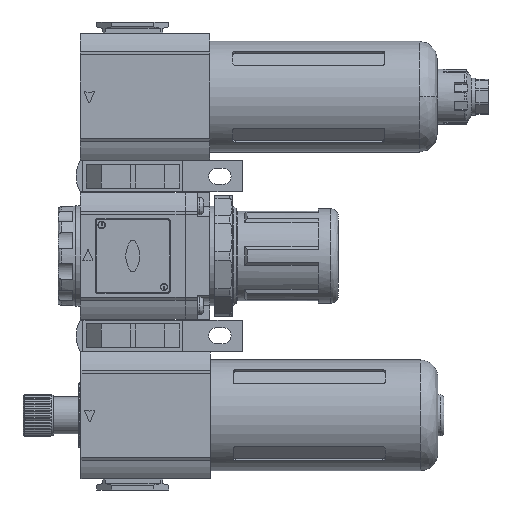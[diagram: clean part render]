
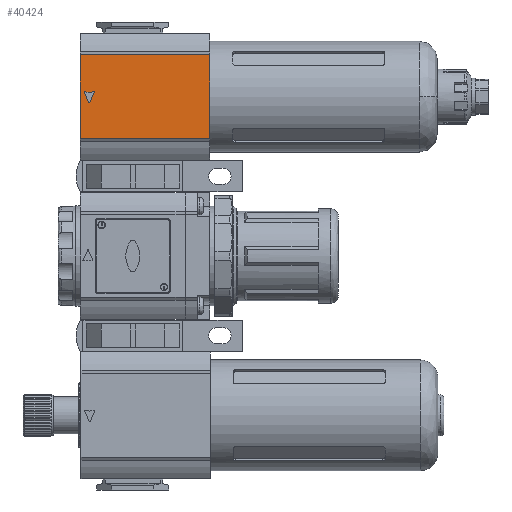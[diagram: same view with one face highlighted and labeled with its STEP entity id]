
A CAD part, left-side view. The second image highlights one B-rep face of the part: STEP entity #40424.
In plain terms, the highlighted planar face has unit normal (-1, 0, 0).
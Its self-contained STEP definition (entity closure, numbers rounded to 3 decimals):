
#798 = LINE ( 'NONE', #67781, #26545 ) ;
#2105 = CARTESIAN_POINT ( 'NONE',  ( -26.7, 19.3, 65.8 ) ) ;
#2261 = VERTEX_POINT ( 'NONE', #25064 ) ;
#4230 = VERTEX_POINT ( 'NONE', #27060 ) ;
#4286 = EDGE_LOOP ( 'NONE', ( #40683, #69000, #47653, #45092 ) ) ;
#4498 = DIRECTION ( 'NONE',  ( 0., 0., 1. ) ) ;
#4792 = DIRECTION ( 'NONE',  ( 0., 0., 1. ) ) ;
#5533 = VERTEX_POINT ( 'NONE', #10269 ) ;
#6262 = ORIENTED_EDGE ( 'NONE', *, *, #47110, .T. ) ;
#6492 = VECTOR ( 'NONE', #79758, 1000. ) ;
#7714 = DIRECTION ( 'NONE',  ( 1., 0., 0. ) ) ;
#8051 = ORIENTED_EDGE ( 'NONE', *, *, #13329, .T. ) ;
#8359 = EDGE_CURVE ( 'NONE', #57718, #5533, #71864, .T. ) ;
#8460 = EDGE_CURVE ( 'NONE', #55665, #2261, #42851, .T. ) ;
#9013 = CARTESIAN_POINT ( 'NONE',  ( -26.7, -31., 80.869 ) ) ;
#9205 = AXIS2_PLACEMENT_3D ( 'NONE', #14040, #7714, #71010 ) ;
#10084 = FACE_BOUND ( 'NONE', #47699, .T. ) ;
#10269 = CARTESIAN_POINT ( 'NONE',  ( -26.7, -31., 80.869 ) ) ;
#12154 = ORIENTED_EDGE ( 'NONE', *, *, #36461, .T. ) ;
#12278 = CARTESIAN_POINT ( 'NONE',  ( -26.7, 17.683, 61.62 ) ) ;
#12723 = EDGE_CURVE ( 'NONE', #2261, #45279, #47213, .T. ) ;
#13329 = EDGE_CURVE ( 'NONE', #35705, #64385, #61700, .T. ) ;
#14040 = CARTESIAN_POINT ( 'NONE',  ( -26.7, 15.7, 65.8 ) ) ;
#14122 = EDGE_CURVE ( 'NONE', #64385, #55665, #29233, .T. ) ;
#15078 = CARTESIAN_POINT ( 'NONE',  ( -26.7, 15.7, 66. ) ) ;
#17049 = CARTESIAN_POINT ( 'NONE',  ( -26.7, 15.517, 65.72 ) ) ;
#20768 = CARTESIAN_POINT ( 'NONE',  ( -26.7, 15.517, 65.72 ) ) ;
#22113 = DIRECTION ( 'NONE',  ( 0., -1., 0. ) ) ;
#23833 = VECTOR ( 'NONE', #90153, 1000. ) ;
#25064 = CARTESIAN_POINT ( 'NONE',  ( -26.7, 17.317, 61.62 ) ) ;
#26545 = VECTOR ( 'NONE', #4498, 1000. ) ;
#27060 = CARTESIAN_POINT ( 'NONE',  ( -26.7, -31., 47.131 ) ) ;
#27399 = DIRECTION ( 'NONE',  ( 0., 0., 1. ) ) ;
#29225 = VERTEX_POINT ( 'NONE', #79632 ) ;
#29233 = CIRCLE ( 'NONE', #9205, 0.2 ) ;
#30273 = EDGE_CURVE ( 'NONE', #4230, #5533, #58904, .T. ) ;
#34469 = DIRECTION ( 'NONE',  ( -1., 0., 0. ) ) ;
#35147 = CARTESIAN_POINT ( 'NONE',  ( -26.7, 17.5, 71.724 ) ) ;
#35433 = DIRECTION ( 'NONE',  ( 0., 0., 1. ) ) ;
#35705 = VERTEX_POINT ( 'NONE', #55064 ) ;
#36461 = EDGE_CURVE ( 'NONE', #45279, #51506, #61696, .T. ) ;
#38074 = FACE_OUTER_BOUND ( 'NONE', #4286, .T. ) ;
#38729 = AXIS2_PLACEMENT_3D ( 'NONE', #62447, #34469, #4792 ) ;
#39595 = VECTOR ( 'NONE', #22113, 1000. ) ;
#40424 = ADVANCED_FACE ( 'NONE', ( #38074, #10084 ), #83907, .T. ) ;
#40683 = ORIENTED_EDGE ( 'NONE', *, *, #30273, .T. ) ;
#41014 = CARTESIAN_POINT ( 'NONE',  ( -26.7, -31., 47.131 ) ) ;
#42851 = LINE ( 'NONE', #17049, #55077 ) ;
#44439 = CARTESIAN_POINT ( 'NONE',  ( -26.7, -31., 80.869 ) ) ;
#44701 = LINE ( 'NONE', #41014, #68205 ) ;
#45092 = ORIENTED_EDGE ( 'NONE', *, *, #55638, .T. ) ;
#45279 = VERTEX_POINT ( 'NONE', #57547 ) ;
#47110 = EDGE_CURVE ( 'NONE', #51506, #35705, #55865, .T. ) ;
#47213 = CIRCLE ( 'NONE', #64377, 0.2 ) ;
#47653 = ORIENTED_EDGE ( 'NONE', *, *, #71436, .F. ) ;
#47699 = EDGE_LOOP ( 'NONE', ( #6262, #8051, #70170, #79336, #69138, #12154 ) ) ;
#50308 = AXIS2_PLACEMENT_3D ( 'NONE', #35147, #70280, #35433 ) ;
#51506 = VERTEX_POINT ( 'NONE', #59982 ) ;
#55064 = CARTESIAN_POINT ( 'NONE',  ( -26.7, 19.3, 66. ) ) ;
#55077 = VECTOR ( 'NONE', #74344, 1000. ) ;
#55638 = EDGE_CURVE ( 'NONE', #29225, #4230, #44701, .T. ) ;
#55665 = VERTEX_POINT ( 'NONE', #20768 ) ;
#55865 = CIRCLE ( 'NONE', #87456, 0.2 ) ;
#57547 = CARTESIAN_POINT ( 'NONE',  ( -26.7, 17.683, 61.62 ) ) ;
#57718 = VERTEX_POINT ( 'NONE', #71340 ) ;
#58904 = LINE ( 'NONE', #9013, #6492 ) ;
#59982 = CARTESIAN_POINT ( 'NONE',  ( -26.7, 19.483, 65.72 ) ) ;
#61696 = LINE ( 'NONE', #12278, #23833 ) ;
#61700 = CIRCLE ( 'NONE', #50308, 6. ) ;
#62447 = CARTESIAN_POINT ( 'NONE',  ( -26.7, -31., 80.869 ) ) ;
#64377 = AXIS2_PLACEMENT_3D ( 'NONE', #70293, #90231, #27399 ) ;
#64385 = VERTEX_POINT ( 'NONE', #15078 ) ;
#64744 = DIRECTION ( 'NONE',  ( 1., 0., 0. ) ) ;
#67781 = CARTESIAN_POINT ( 'NONE',  ( -26.7, 21., 64. ) ) ;
#68205 = VECTOR ( 'NONE', #76490, 1000. ) ;
#69000 = ORIENTED_EDGE ( 'NONE', *, *, #8359, .F. ) ;
#69138 = ORIENTED_EDGE ( 'NONE', *, *, #12723, .T. ) ;
#70170 = ORIENTED_EDGE ( 'NONE', *, *, #14122, .T. ) ;
#70280 = DIRECTION ( 'NONE',  ( -1., 0., 0. ) ) ;
#70293 = CARTESIAN_POINT ( 'NONE',  ( -26.7, 17.5, 61.7 ) ) ;
#71010 = DIRECTION ( 'NONE',  ( 0., 0., 1. ) ) ;
#71340 = CARTESIAN_POINT ( 'NONE',  ( -26.7, 21., 80.869 ) ) ;
#71436 = EDGE_CURVE ( 'NONE', #29225, #57718, #798, .T. ) ;
#71864 = LINE ( 'NONE', #44439, #39595 ) ;
#74344 = DIRECTION ( 'NONE',  ( 0., 0.402, -0.916 ) ) ;
#76490 = DIRECTION ( 'NONE',  ( 0., -1., 0. ) ) ;
#79336 = ORIENTED_EDGE ( 'NONE', *, *, #8460, .T. ) ;
#79373 = DIRECTION ( 'NONE',  ( 0., 0., 1. ) ) ;
#79632 = CARTESIAN_POINT ( 'NONE',  ( -26.7, 21., 47.131 ) ) ;
#79758 = DIRECTION ( 'NONE',  ( 0., 0., 1. ) ) ;
#83907 = PLANE ( 'NONE',  #38729 ) ;
#87456 = AXIS2_PLACEMENT_3D ( 'NONE', #2105, #64744, #79373 ) ;
#90153 = DIRECTION ( 'NONE',  ( 0., 0.402, 0.916 ) ) ;
#90231 = DIRECTION ( 'NONE',  ( 1., 0., 0. ) ) ;
